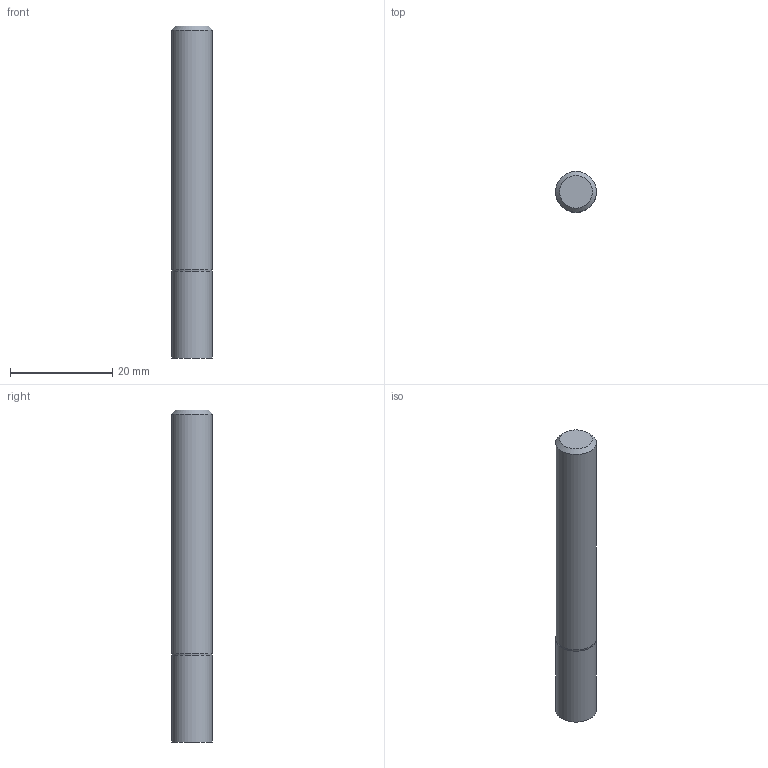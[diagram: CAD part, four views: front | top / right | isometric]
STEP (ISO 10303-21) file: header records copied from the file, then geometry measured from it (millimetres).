
FILE_DESCRIPTION((''),'2;1');
FILE_NAME('C:\Users\nsx150\AppData\Local\Temp\Mastercam 2021\98T1Q6BTT1\TEMP.step','2021-10-21T14:49:31',(''),(''),'STEP Write','Mastercam 2021 ... CNC Software, Inc.','');
FILE_SCHEMA(('AUTOMOTIVE_DESIGN'));
Length unit declared in the file: millimetre
Products named in the file (1): None
Bounding box: 8 x 8 x 65 mm (x, y, z)
Volume: 3238.3 mm3; surface area: 1813 mm2
Topology: 2 solids, 2 shells, 8 faces, 10 edges, 6 vertices
Faces by surface type: plane 4, cylinder 2, cone 2
Full cylindrical faces by diameter (mm): 7.9 x1, 8 x1
Entity records: 190 total; most frequent: DIRECTION 32, CARTESIAN_POINT 22, AXIS2_PLACEMENT_3D 16, ORIENTED_EDGE 12, EDGE_LOOP 12, STYLED_ITEM 11, ADVANCED_FACE 8, VERTEX_POINT 6
